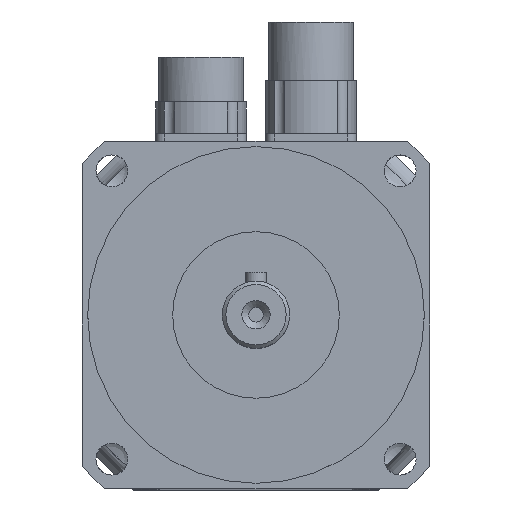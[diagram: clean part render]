
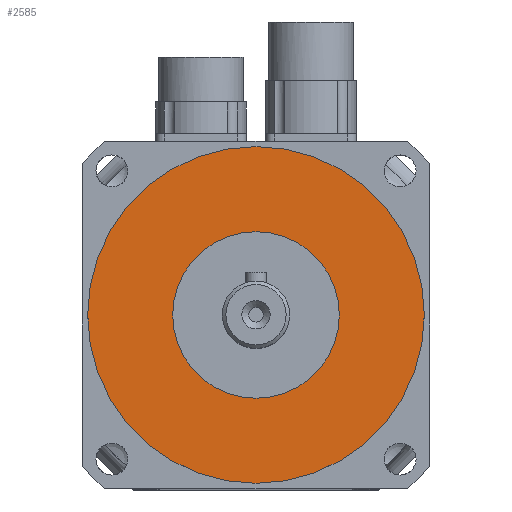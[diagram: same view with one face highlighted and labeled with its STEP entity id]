
A CAD part, top view. The second image highlights one B-rep face of the part: STEP entity #2585.
In plain terms, the highlighted planar face has unit normal (0, 0, 1).
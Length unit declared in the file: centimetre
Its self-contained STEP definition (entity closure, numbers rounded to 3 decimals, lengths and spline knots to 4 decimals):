
#542=PLANE('',#2759);
#627=CIRCLE('',#2754,4.75);
#629=CIRCLE('',#2757,2.35);
#1077=VERTEX_POINT('',#4587);
#1079=VERTEX_POINT('',#4592);
#1337=EDGE_CURVE('',#1077,#1077,#627,.T.);
#1339=EDGE_CURVE('',#1079,#1079,#629,.T.);
#1732=ORIENTED_EDGE('',*,*,#1339,.F.);
#1733=ORIENTED_EDGE('',*,*,#1337,.F.);
#2213=EDGE_LOOP('',(#1732));
#2214=EDGE_LOOP('',(#1733));
#2407=FACE_BOUND('',#2213,.T.);
#2408=FACE_BOUND('',#2214,.T.);
#2585=ADVANCED_FACE('',(#2407,#2408),#542,.T.);
#2754=AXIS2_PLACEMENT_3D('',#4586,#3170,#3171);
#2757=AXIS2_PLACEMENT_3D('',#4591,#3176,#3177);
#2759=AXIS2_PLACEMENT_3D('',#4595,#3180,$);
#3170=DIRECTION('',(0.,0.,-1.));
#3171=DIRECTION('',(4.75,0.,0.));
#3176=DIRECTION('',(0.,0.,1.));
#3177=DIRECTION('',(2.35,0.,0.));
#3180=DIRECTION('',(0.,0.,1.));
#4586=CARTESIAN_POINT('',(0.,0.,1.6));
#4587=CARTESIAN_POINT('',(4.75,0.,1.6));
#4591=CARTESIAN_POINT('',(0.,0.,1.6));
#4592=CARTESIAN_POINT('',(2.35,0.,1.6));
#4595=CARTESIAN_POINT('',(0.,0.,1.6));
